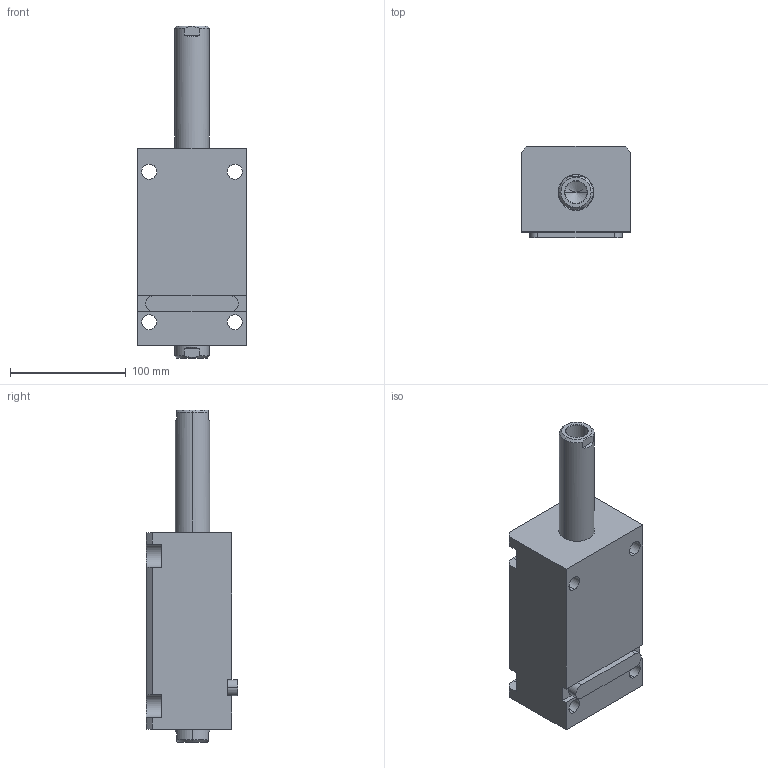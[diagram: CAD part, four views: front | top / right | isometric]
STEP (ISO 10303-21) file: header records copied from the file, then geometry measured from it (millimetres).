
FILE_DESCRIPTION (( 'STEP AP203' ), '1' );
FILE_NAME ('CHTB-LW50-95N.STEP', '2018-05-18T09:59:33', ( '' ), ( '' ), 'SwSTEP 2.0', 'SolidWorks 2015', '' );
FILE_SCHEMA (( 'CONFIG_CONTROL_DESIGN' ));
Length unit declared in the file: millimetre
Products named in the file (4): CHTM-SDMA50QG; 活塞杆LW50-95N; 掛极LW50-95N; CHTB-LW50-95N
Assembly tree (3 placements, depth 2):
  CHTB-LW50-95N
    掛极LW50-95N
    活塞杆LW50-95N
    CHTM-SDMA50QG
Bounding box: 94 x 79 x 287 mm (x, y, z)
Volume: 1071639.4 mm3; surface area: 158393.1 mm2
Topology: 3 solids, 3 shells, 221 faces, 588 edges, 385 vertices
Faces by surface type: cylinder 102, plane 58, cone 31, torus 16, bspline 14
Entity records: 11831 total; most frequent: CARTESIAN_POINT 6126, ORIENTED_EDGE 1160, DIRECTION 1056, EDGE_CURVE 580, AXIS2_PLACEMENT_3D 416, VERTEX_POINT 385, EDGE_LOOP 257, VECTOR 224
